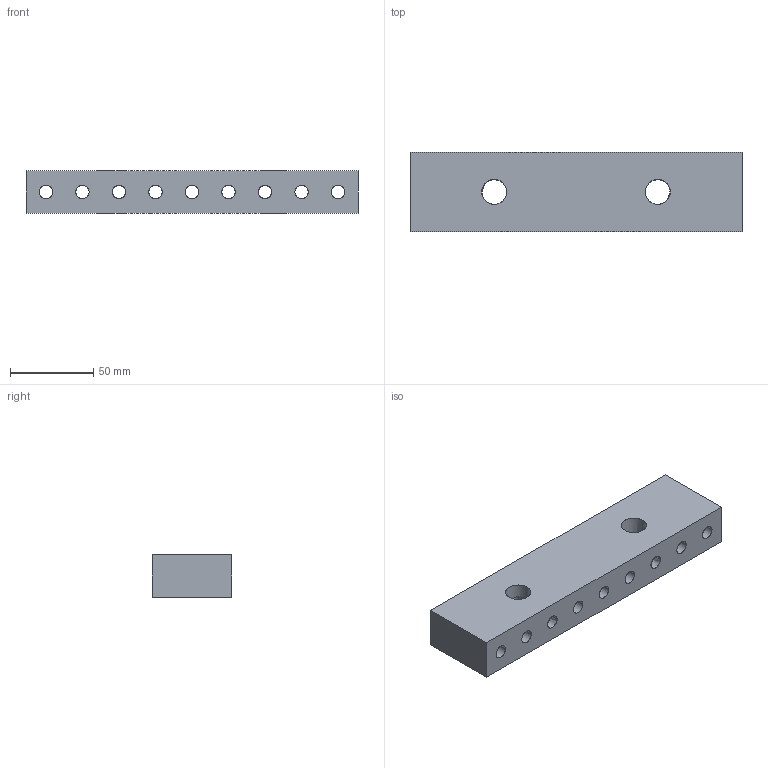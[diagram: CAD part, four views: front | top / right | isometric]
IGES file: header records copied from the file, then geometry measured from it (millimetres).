
Start section: SolidWorks IGES file using analytic representation for surfaces
Global section: file name: C:\Users\liam_\OneDrive\Documents\WORK\Work for WixRoyd\Job Files\J-00028 - Matt Davis CAD - 20191222\Wixroyd20191222\12037_v2\12037_v2_2020102_IGES\12037.W0020.igs; native system: SolidWorks 2017; preprocessor: SolidWorks 2017; author: liam_; date: 200102.205325; units: millimetre
Bounding box: 200 x 47.75 x 25.4 mm (x, y, z)
Surface area: 44827.5 mm2 (no closed solid volume)
Topology: 0 solids, 0 shells, 55 faces, 1714 edges, 1714 vertices
Faces by surface type: revolution 40, bspline 15
